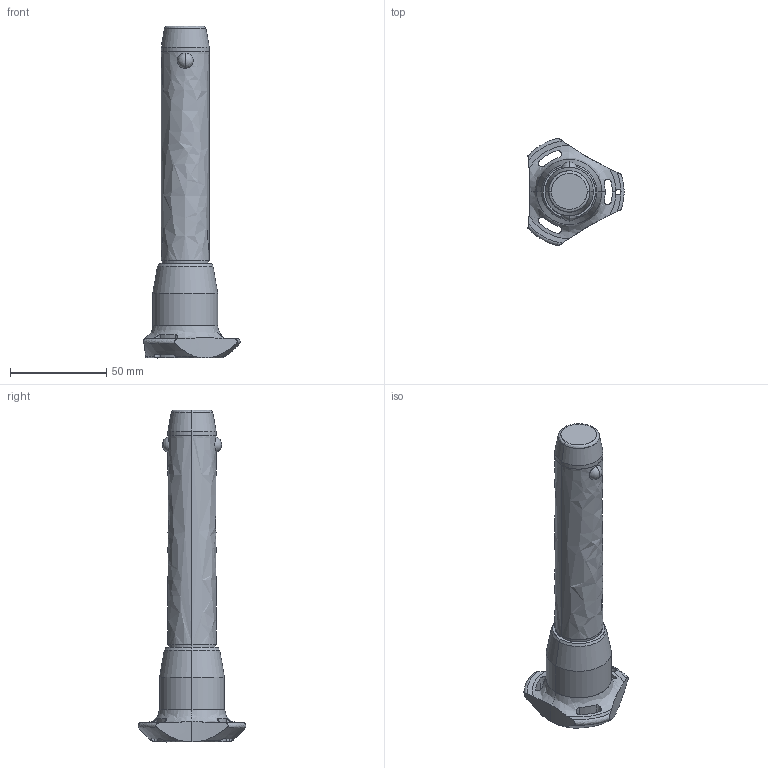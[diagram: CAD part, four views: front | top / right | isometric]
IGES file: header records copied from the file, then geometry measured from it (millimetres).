
Start section: SolidWorks IGES file using analytic representation for surfaces
Global section: file name: C:\Users\ianosborn\Desktop\QR1716_v2\QR1716_v2_20251114_IGES\QR1716.M25-100-T.igs; native system: SolidWorks 2019; preprocessor: SolidWorks 2019; author: IanOsborn; date: 251113.104653; units: millimetre
Bounding box: 50.03 x 56.02 x 172.7 mm (x, y, z)
Surface area: 19303.8 mm2 (no closed solid volume)
Topology: 0 solids, 0 shells, 68 faces, 1382 edges, 1378 vertices
Faces by surface type: revolution 52, bspline 16
